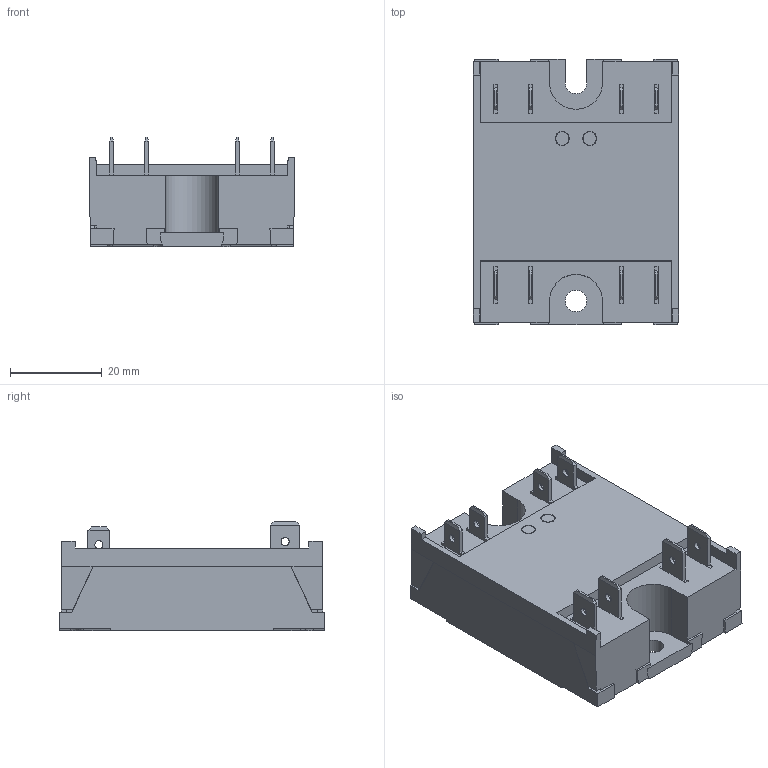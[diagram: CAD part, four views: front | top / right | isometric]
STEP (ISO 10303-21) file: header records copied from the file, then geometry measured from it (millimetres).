
FILE_DESCRIPTION((''),'2;1');
FILE_NAME('C:\Documents and Settings\jstuder\Desktop\2D3D 611 A.stp','2013-03-26T16:08:58',('Jean STUDER','reponsable mthode & industrialisation','+33 (0)4 77 53 90 27','jstuder@celduc.com'),('Celduc r e l a i s','5, rue Ampre, BP 30004','42290 SORBIERS - France','Fax : +33 (0)4 77 53 85 51','N siret 353 310 519 00015','ISO 9001 N QUAL/1993/1106b','www.celduc.com'),'Autodesk Inventor 2010','Autodesk Inventor 2010','');
FILE_SCHEMA(('AUTOMOTIVE_DESIGN { 1 0 10303 214 1 1 1 1 }'));
Length unit declared in the file: millimetre
Products named in the file (1): SOB5xx4xx
Bounding box: 44.8 x 58 x 23.8 mm (x, y, z)
Volume: 40159.5 mm3; surface area: 10607 mm2
Topology: 1 solids, 1 shells, 267 faces, 715 edges, 462 vertices
Faces by surface type: plane 237, cylinder 12, cone 10, bspline 8
Full cylindrical faces by diameter (mm): 1.76 x8, 4.7 x1
Entity records: 8431 total; most frequent: CARTESIAN_POINT 1480, ORIENTED_EDGE 1400, DIRECTION 1274, EDGE_CURVE 700, VECTOR 646, LINE 646, VERTEX_POINT 460, AXIS2_PLACEMENT_3D 314
